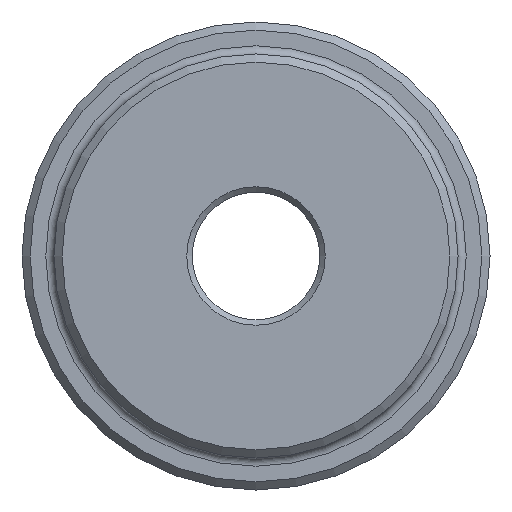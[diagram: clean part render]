
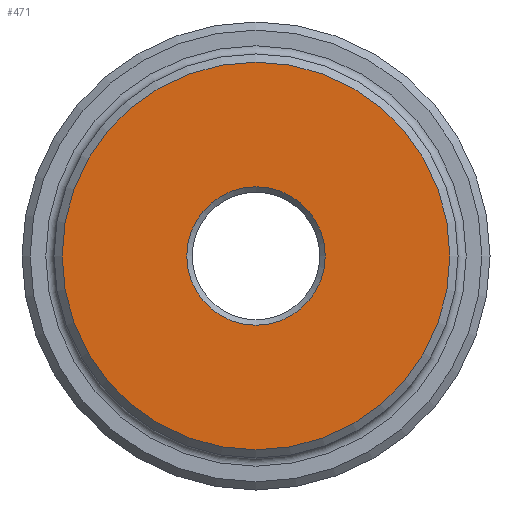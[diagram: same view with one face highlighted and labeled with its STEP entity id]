
A CAD part, left-side view. The second image highlights one B-rep face of the part: STEP entity #471.
In plain terms, the highlighted planar face has unit normal (-1, 0, 0).
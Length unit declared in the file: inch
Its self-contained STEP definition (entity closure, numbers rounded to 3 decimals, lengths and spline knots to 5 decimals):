
#7 = CIRCLE ( 'NONE', #42, 1.425 ) ;
#35 = DIRECTION ( 'NONE',  ( 0., 0., -1. ) ) ;
#42 = AXIS2_PLACEMENT_3D ( 'NONE', #1477, #652, #75 ) ;
#43 = CARTESIAN_POINT ( 'NONE',  ( 0., 0., 0. ) ) ;
#75 = DIRECTION ( 'NONE',  ( 0., 0., -1. ) ) ;
#108 = EDGE_LOOP ( 'NONE', ( #1097 ) ) ;
#167 = AXIS2_PLACEMENT_3D ( 'NONE', #1256, #421, #35 ) ;
#180 = PLANE ( 'NONE',  #167 ) ;
#284 = EDGE_LOOP ( 'NONE', ( #1050 ) ) ;
#372 = VERTEX_POINT ( 'NONE', #1443 ) ;
#421 = DIRECTION ( 'NONE',  ( 1., 0., 0. ) ) ;
#453 = FACE_BOUND ( 'NONE', #284, .T. ) ;
#471 = ADVANCED_FACE ( 'NONE', ( #453, #1199 ), #180, .F. ) ;
#652 = DIRECTION ( 'NONE',  ( -1., 0., 0. ) ) ;
#680 = CIRCLE ( 'NONE', #1344, 0.5089 ) ;
#774 = DIRECTION ( 'NONE',  ( 1., 0., 0. ) ) ;
#897 = CARTESIAN_POINT ( 'NONE',  ( 0., 0., -0.5089 ) ) ;
#1050 = ORIENTED_EDGE ( 'NONE', *, *, #1637, .T. ) ;
#1097 = ORIENTED_EDGE ( 'NONE', *, *, #1649, .T. ) ;
#1199 = FACE_OUTER_BOUND ( 'NONE', #108, .T. ) ;
#1256 = CARTESIAN_POINT ( 'NONE',  ( 0., 0., 0. ) ) ;
#1344 = AXIS2_PLACEMENT_3D ( 'NONE', #43, #774, #1539 ) ;
#1443 = CARTESIAN_POINT ( 'NONE',  ( 0., 0., -1.425 ) ) ;
#1477 = CARTESIAN_POINT ( 'NONE',  ( 0., 0., 0. ) ) ;
#1539 = DIRECTION ( 'NONE',  ( 0., 0., -1. ) ) ;
#1637 = EDGE_CURVE ( 'NONE', #1688, #1688, #680, .T. ) ;
#1649 = EDGE_CURVE ( 'NONE', #372, #372, #7, .T. ) ;
#1688 = VERTEX_POINT ( 'NONE', #897 ) ;
